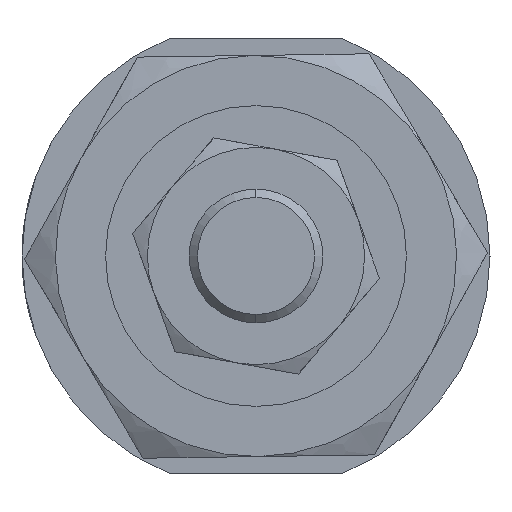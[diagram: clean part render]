
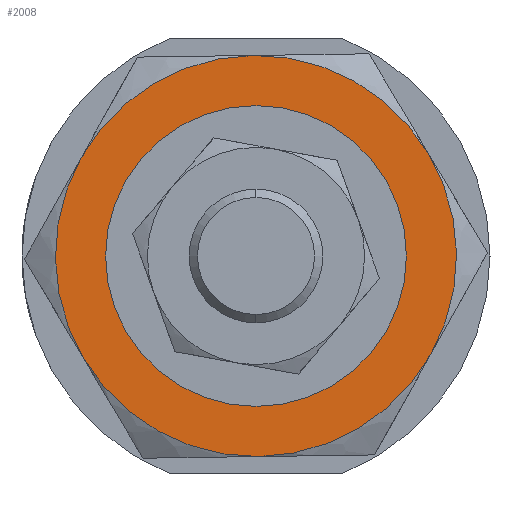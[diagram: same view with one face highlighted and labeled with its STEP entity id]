
A CAD part, left-side view. The second image highlights one B-rep face of the part: STEP entity #2008.
In plain terms, the highlighted planar face has unit normal (-1, 0, 0) as drawn and (0, 0, -1) by its records, which use the part's own axes.
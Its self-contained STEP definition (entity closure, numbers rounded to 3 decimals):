
#14 = ORIENTED_EDGE ( 'NONE', *, *, #2872, .T. ) ;
#128 = CARTESIAN_POINT ( 'NONE',  ( 12., 0., -4. ) ) ;
#138 = PLANE ( 'NONE',  #956 ) ;
#199 = AXIS2_PLACEMENT_3D ( 'NONE', #236, #595, #2538 ) ;
#236 = CARTESIAN_POINT ( 'NONE',  ( 0., 0., -4. ) ) ;
#261 = EDGE_CURVE ( 'NONE', #1052, #2116, #1760, .T. ) ;
#293 = CARTESIAN_POINT ( 'NONE',  ( -6., -10.392, -4. ) ) ;
#327 = ORIENTED_EDGE ( 'NONE', *, *, #261, .F. ) ;
#386 = DIRECTION ( 'NONE',  ( 0., 0., 1. ) ) ;
#465 = CARTESIAN_POINT ( 'NONE',  ( 0., 0., -4. ) ) ;
#469 = DIRECTION ( 'NONE',  ( 1., 0., 0. ) ) ;
#507 = DIRECTION ( 'NONE',  ( 0., 0., 1. ) ) ;
#536 = VERTEX_POINT ( 'NONE', #894 ) ;
#542 = DIRECTION ( 'NONE',  ( 1., 0., 0. ) ) ;
#595 = DIRECTION ( 'NONE',  ( 0., 0., 1. ) ) ;
#621 = DIRECTION ( 'NONE',  ( 0., 0., 1. ) ) ;
#623 = EDGE_CURVE ( 'NONE', #1513, #2439, #2951, .T. ) ;
#705 = CIRCLE ( 'NONE', #1888, 8.25 ) ;
#707 = VERTEX_POINT ( 'NONE', #909 ) ;
#761 = CIRCLE ( 'NONE', #1432, 12. ) ;
#822 = FACE_BOUND ( 'NONE', #1536, .T. ) ;
#851 = DIRECTION ( 'NONE',  ( 0., 0., 1. ) ) ;
#894 = CARTESIAN_POINT ( 'NONE',  ( 8.25, 0., -4. ) ) ;
#909 = CARTESIAN_POINT ( 'NONE',  ( -6., 10.392, -4. ) ) ;
#921 = ORIENTED_EDGE ( 'NONE', *, *, #1122, .F. ) ;
#956 = AXIS2_PLACEMENT_3D ( 'NONE', #1648, #386, #542 ) ;
#998 = DIRECTION ( 'NONE',  ( 1., 0., 0. ) ) ;
#1014 = DIRECTION ( 'NONE',  ( 1., 0., 0. ) ) ;
#1024 = CARTESIAN_POINT ( 'NONE',  ( 0., 0., -4. ) ) ;
#1045 = EDGE_CURVE ( 'NONE', #1950, #536, #2095, .T. ) ;
#1052 = VERTEX_POINT ( 'NONE', #3083 ) ;
#1077 = VERTEX_POINT ( 'NONE', #2970 ) ;
#1122 = EDGE_CURVE ( 'NONE', #1077, #707, #2189, .T. ) ;
#1217 = DIRECTION ( 'NONE',  ( 1., 0., 0. ) ) ;
#1267 = CARTESIAN_POINT ( 'NONE',  ( 0., 0., -4. ) ) ;
#1300 = AXIS2_PLACEMENT_3D ( 'NONE', #2706, #1311, #998 ) ;
#1311 = DIRECTION ( 'NONE',  ( 0., 0., 1. ) ) ;
#1423 = DIRECTION ( 'NONE',  ( 1., 0., 0. ) ) ;
#1432 = AXIS2_PLACEMENT_3D ( 'NONE', #2949, #1589, #2200 ) ;
#1453 = EDGE_CURVE ( 'NONE', #2439, #1077, #761, .T. ) ;
#1496 = CARTESIAN_POINT ( 'NONE',  ( 6., -10.392, -4. ) ) ;
#1513 = VERTEX_POINT ( 'NONE', #1496 ) ;
#1536 = EDGE_LOOP ( 'NONE', ( #14, #2605 ) ) ;
#1566 = CARTESIAN_POINT ( 'NONE',  ( 0., 0., -4. ) ) ;
#1589 = DIRECTION ( 'NONE',  ( 0., 0., 1. ) ) ;
#1648 = CARTESIAN_POINT ( 'NONE',  ( 0., 0., -4. ) ) ;
#1687 = ORIENTED_EDGE ( 'NONE', *, *, #623, .F. ) ;
#1760 = CIRCLE ( 'NONE', #2037, 12. ) ;
#1830 = AXIS2_PLACEMENT_3D ( 'NONE', #1566, #2132, #2885 ) ;
#1886 = CIRCLE ( 'NONE', #199, 12. ) ;
#1888 = AXIS2_PLACEMENT_3D ( 'NONE', #465, #621, #1014 ) ;
#1950 = VERTEX_POINT ( 'NONE', #2636 ) ;
#1980 = AXIS2_PLACEMENT_3D ( 'NONE', #1267, #507, #1217 ) ;
#2008 = ADVANCED_FACE ( 'NONE', ( #822, #3061 ), #138, .F. ) ;
#2037 = AXIS2_PLACEMENT_3D ( 'NONE', #2082, #851, #1423 ) ;
#2055 = EDGE_CURVE ( 'NONE', #2116, #1513, #1886, .T. ) ;
#2060 = ORIENTED_EDGE ( 'NONE', *, *, #2344, .F. ) ;
#2082 = CARTESIAN_POINT ( 'NONE',  ( 0., 0., -4. ) ) ;
#2090 = ORIENTED_EDGE ( 'NONE', *, *, #1453, .F. ) ;
#2095 = CIRCLE ( 'NONE', #1300, 8.25 ) ;
#2116 = VERTEX_POINT ( 'NONE', #293 ) ;
#2132 = DIRECTION ( 'NONE',  ( 0., 0., 1. ) ) ;
#2189 = CIRCLE ( 'NONE', #1830, 12. ) ;
#2200 = DIRECTION ( 'NONE',  ( 1., 0., 0. ) ) ;
#2344 = EDGE_CURVE ( 'NONE', #707, #1052, #2383, .T. ) ;
#2383 = CIRCLE ( 'NONE', #2428, 12. ) ;
#2428 = AXIS2_PLACEMENT_3D ( 'NONE', #1024, #2944, #469 ) ;
#2439 = VERTEX_POINT ( 'NONE', #128 ) ;
#2486 = EDGE_LOOP ( 'NONE', ( #2090, #1687, #3018, #327, #2060, #921 ) ) ;
#2538 = DIRECTION ( 'NONE',  ( 1., 0., 0. ) ) ;
#2605 = ORIENTED_EDGE ( 'NONE', *, *, #1045, .T. ) ;
#2636 = CARTESIAN_POINT ( 'NONE',  ( -8.25, 0., -4. ) ) ;
#2706 = CARTESIAN_POINT ( 'NONE',  ( 0., 0., -4. ) ) ;
#2872 = EDGE_CURVE ( 'NONE', #536, #1950, #705, .T. ) ;
#2885 = DIRECTION ( 'NONE',  ( 1., 0., 0. ) ) ;
#2944 = DIRECTION ( 'NONE',  ( 0., 0., 1. ) ) ;
#2949 = CARTESIAN_POINT ( 'NONE',  ( 0., 0., -4. ) ) ;
#2951 = CIRCLE ( 'NONE', #1980, 12. ) ;
#2970 = CARTESIAN_POINT ( 'NONE',  ( 6., 10.392, -4. ) ) ;
#3018 = ORIENTED_EDGE ( 'NONE', *, *, #2055, .F. ) ;
#3061 = FACE_OUTER_BOUND ( 'NONE', #2486, .T. ) ;
#3083 = CARTESIAN_POINT ( 'NONE',  ( -12., 0., -4. ) ) ;
